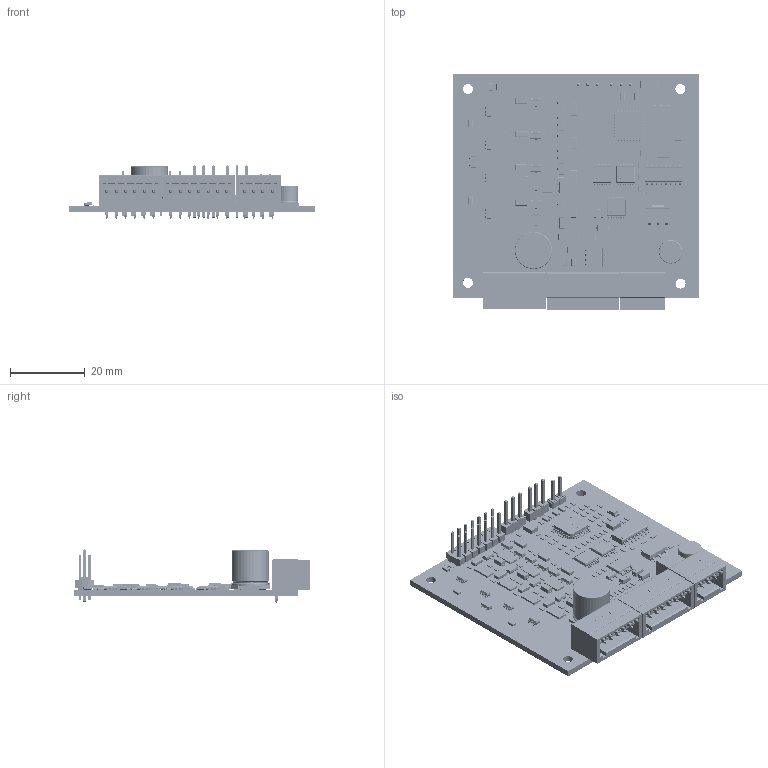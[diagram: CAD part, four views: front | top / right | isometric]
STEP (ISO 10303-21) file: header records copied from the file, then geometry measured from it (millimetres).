
FILE_DESCRIPTION(('Open CASCADE Model'),'2;1');
FILE_NAME('Open CASCADE Shape Model','2014-04-02T16:55:24',('Author'),( 'Open CASCADE'),'Open CASCADE STEP processor 6.2','Open CASCADE 6.2' ,'Unknown');
FILE_SCHEMA(('AUTOMOTIVE_DESIGN { 1 0 10303 214 1 1 1 1 }'));
Length unit declared in the file: millimetre
Products named in the file (255): PCB; Board; ST100dcm00-01; User_Library-SOT23-2; C130dcm00-01; SW3dPS-0603_SMD_Capacitor; R188dcm00-01; R187dcm00-01; R186dcm00-01; R185dcm00-01; TRN112dcm00-01; CN1dcm00-01; 1881480; mc_0.5-6-g-2.5; CN3dcm00-01; 1881464; mc_0.5-4-g-2.5; CN2dcm00-01; 1881493; mc_0.5-7-g-2.5; R172dcm00-01; User_Library-Chip_Resistor_2010_(5025); R166dcm00-01; R162dcm00-01; C112dcm00-01; R184dcm00-01; C136dcm00-01; C100dcm00-01; C101dcm00-01; C102dcm00-01; C103dcm00-01; C104dcm00-01; SW3dPS-0805_SMD_Capacitor; C105dcm00-01; C106dcm00-01; C107dcm00-01; C108dcm00-01; C109dcm00-01; C110dcm00-01; C111dcm00-01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
Assembly tree (427 placements, depth 8):
  PCB
    Board
    ST100dcm00-01
      User_Library-SOT23-2
    C130dcm00-01
      SW3dPS-0603_SMD_Capacitor
    R188dcm00-01
      SW3dPS-0603_SMD_Capacitor
    R187dcm00-01
      SW3dPS-0603_SMD_Capacitor
    R186dcm00-01
      SW3dPS-0603_SMD_Capacitor
    R185dcm00-01
      SW3dPS-0603_SMD_Capacitor
    TRN112dcm00-01
      User_Library-SOT23-2
    CN1dcm00-01
      1881480
        mc_0.5-6-g-2.5
    CN3dcm00-01
      1881464
        mc_0.5-4-g-2.5
    CN2dcm00-01
      1881493
        mc_0.5-7-g-2.5
    R172dcm00-01
      User_Library-Chip_Resistor_2010_(5025)
    R166dcm00-01
      SW3dPS-0603_SMD_Capacitor
    R162dcm00-01
      SW3dPS-0603_SMD_Capacitor
    C112dcm00-01
      SW3dPS-0603_SMD_Capacitor
    R184dcm00-01
      SW3dPS-0603_SMD_Capacitor
    C136dcm00-01
      SW3dPS-0603_SMD_Capacitor
    C100dcm00-01
      SW3dPS-0603_SMD_Capacitor
    C101dcm00-01
      SW3dPS-0603_SMD_Capacitor
    C102dcm00-01
      SW3dPS-0603_SMD_Capacitor
    C103dcm00-01
      SW3dPS-0603_SMD_Capacitor
    C104dcm00-01
      SW3dPS-0805_SMD_Capacitor
    C105dcm00-01
      SW3dPS-0805_SMD_Capacitor
    C106dcm00-01
      SW3dPS-0603_SMD_Capacitor
    C107dcm00-01
      SW3dPS-0603_SMD_Capacitor
    C108dcm00-01
      SW3dPS-0603_SMD_Capacitor
    C109dcm00-01
      SW3dPS-0603_SMD_Capacitor
    C110dcm00-01
      SW3dPS-0603_SMD_Capacitor
    C111dcm00-01
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Bounding box: 66 x 63.24 x 14.3 mm (x, y, z)
Volume: 11515 mm3; surface area: 17038.6 mm2
Topology: 258 solids, 262 shells, 16311 faces, 40277 edges, 24373 vertices
Faces by surface type: plane 7437, bspline 4557, cylinder 3251, sphere 930, torus 112, cone 24
Full cylindrical faces by diameter (mm): 1.016 x22, 1.2 x17, 2.7 x4
Entity records: 253638 total; most frequent: CARTESIAN_POINT 73715, DIRECTION 28691, LINE 18571, VECTOR 18571, ORIENTED_EDGE 16382, PCURVE 16382, DEFINITIONAL_REPRESENTATION 16382, EDGE_CURVE 8195
